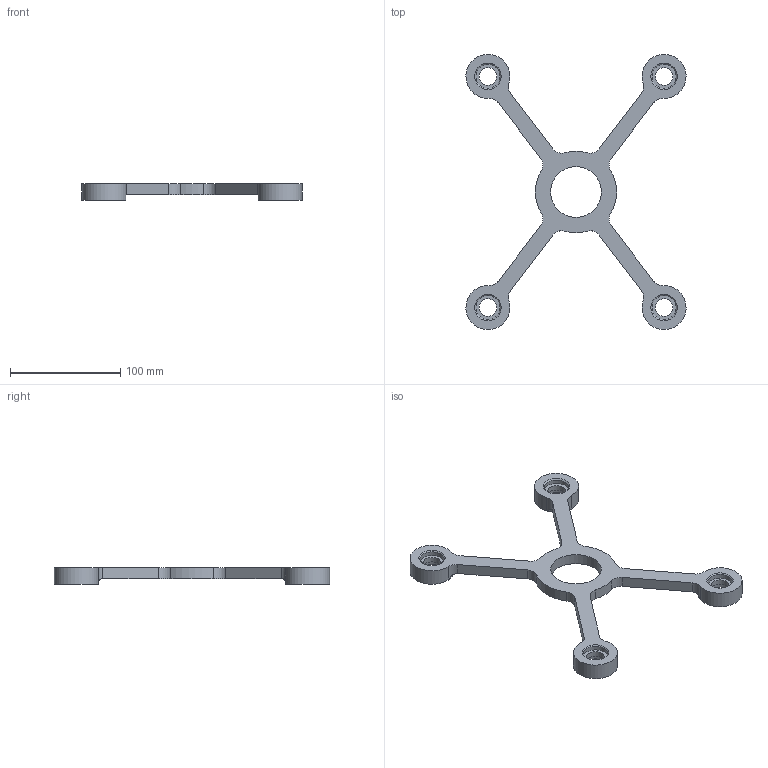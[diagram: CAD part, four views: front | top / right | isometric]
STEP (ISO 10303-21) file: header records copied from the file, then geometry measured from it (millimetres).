
FILE_DESCRIPTION(/* description */ ('','CAx-IF Rec.Pracs.---Representation and Presentation of Product Manufacturing Information (PMI)---4.0---2014-10-13'),/* implementation_level */ '2;1');
FILE_NAME(/* name */ 'base 20 25.step',/* time_stamp */ '2025-03-22T13:35:38+01:00',/* author */ (''),/* organization */ (''),/* preprocessor_version */ 'ST-DEVELOPER v20',/* originating_system */ 'Autodesk Translation Framework v13.20.0.188',/* authorisation */ '');
FILE_SCHEMA (('AP242_MANAGED_MODEL_BASED_3D_ENGINEERING_MIM_LF { 1 0 10303 442 1 1 4 }'));
Length unit declared in the file: millimetre
Products named in the file (1): base
Bounding box: 199.89 x 249.99 x 15 mm (x, y, z)
Volume: 126380.4 mm3; surface area: 41992.2 mm2
Topology: 1 solids, 1 shells, 67 faces, 163 edges, 106 vertices
Faces by surface type: cylinder 37, plane 22, cone 4, torus 4
Full cylindrical faces by diameter (mm): 16 x4, 22 x8, 46 x1
Entity records: 2120 total; most frequent: CARTESIAN_POINT 417, DIRECTION 381, ORIENTED_EDGE 326, EDGE_CURVE 163, AXIS2_PLACEMENT_3D 158, VERTEX_POINT 106, CIRCLE 90, EDGE_LOOP 85
